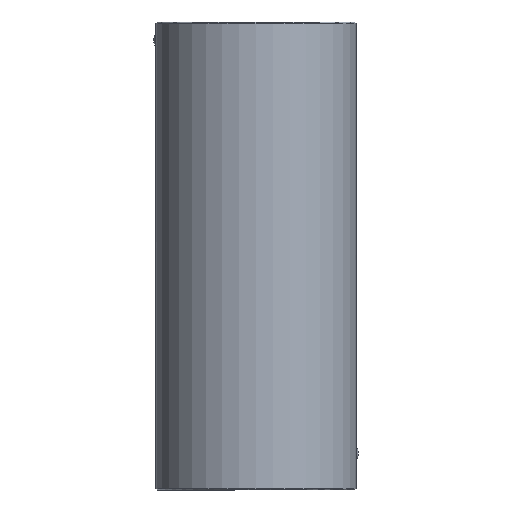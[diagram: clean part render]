
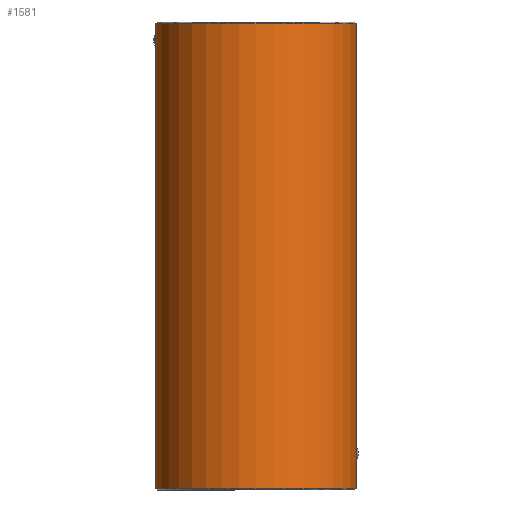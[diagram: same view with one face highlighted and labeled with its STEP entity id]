
A CAD part, front view. The second image highlights one B-rep face of the part: STEP entity #1581.
In plain terms, the highlighted cylindrical face has radius 22.5 mm (diameter 45 mm), a partial arc.
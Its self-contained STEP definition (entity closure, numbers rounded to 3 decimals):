
#1363=CARTESIAN_POINT('Vertex',(-22.5,0.,0.3)) ;
#1370=CARTESIAN_POINT('Vertex',(22.5,0.,0.3)) ;
#1373=CARTESIAN_POINT('Axis2P3D Location',(0.,0.,0.3)) ;
#1491=CARTESIAN_POINT('Axis2P3D Location',(0.,0.,105.)) ;
#1496=CARTESIAN_POINT('Line Origine',(22.5,0.,105.)) ;
#1500=CARTESIAN_POINT('Vertex',(22.5,0.,6.877)) ;
#1504=CARTESIAN_POINT('Control Point',(22.458,-1.369,8.201)) ;
#1505=CARTESIAN_POINT('Control Point',(22.458,-1.369,7.777)) ;
#1506=CARTESIAN_POINT('Control Point',(22.469,-1.194,7.356)) ;
#1507=CARTESIAN_POINT('Control Point',(22.49,-0.847,7.034)) ;
#1508=CARTESIAN_POINT('Control Point',(22.5,-0.424,6.877)) ;
#1509=CARTESIAN_POINT('Control Point',(22.5,0.,6.877)) ;
#1510=CARTESIAN_POINT('Vertex',(22.458,-1.369,8.201)) ;
#1514=CARTESIAN_POINT('Control Point',(22.5,0.,9.523)) ;
#1515=CARTESIAN_POINT('Control Point',(22.5,-0.423,9.523)) ;
#1516=CARTESIAN_POINT('Control Point',(22.49,-0.842,9.368)) ;
#1517=CARTESIAN_POINT('Control Point',(22.469,-1.194,9.046)) ;
#1518=CARTESIAN_POINT('Control Point',(22.458,-1.368,8.624)) ;
#1519=CARTESIAN_POINT('Control Point',(22.458,-1.369,8.201)) ;
#1520=CARTESIAN_POINT('Vertex',(22.5,0.,9.523)) ;
#1523=CARTESIAN_POINT('Line Origine',(22.5,0.,105.)) ;
#1527=CARTESIAN_POINT('Vertex',(22.5,0.,104.7)) ;
#1530=CARTESIAN_POINT('Axis2P3D Location',(0.,0.,104.7)) ;
#1534=CARTESIAN_POINT('Vertex',(-22.5,0.,104.7)) ;
#1537=CARTESIAN_POINT('Line Origine',(-22.5,0.,105.)) ;
#1541=CARTESIAN_POINT('Vertex',(-22.5,0.,102.223)) ;
#1545=CARTESIAN_POINT('Control Point',(-22.458,-1.369,100.899)) ;
#1546=CARTESIAN_POINT('Control Point',(-22.458,-1.369,101.323)) ;
#1547=CARTESIAN_POINT('Control Point',(-22.469,-1.194,101.744)) ;
#1548=CARTESIAN_POINT('Control Point',(-22.49,-0.847,102.066)) ;
#1549=CARTESIAN_POINT('Control Point',(-22.5,-0.424,102.223)) ;
#1550=CARTESIAN_POINT('Control Point',(-22.5,0.,102.223)) ;
#1551=CARTESIAN_POINT('Vertex',(-22.458,-1.369,100.899)) ;
#1555=CARTESIAN_POINT('Control Point',(-22.5,0.,99.577)) ;
#1556=CARTESIAN_POINT('Control Point',(-22.5,-0.423,99.577)) ;
#1557=CARTESIAN_POINT('Control Point',(-22.49,-0.842,99.732)) ;
#1558=CARTESIAN_POINT('Control Point',(-22.469,-1.194,100.054)) ;
#1559=CARTESIAN_POINT('Control Point',(-22.458,-1.368,100.476)) ;
#1560=CARTESIAN_POINT('Control Point',(-22.458,-1.369,100.899)) ;
#1561=CARTESIAN_POINT('Vertex',(-22.5,0.,99.577)) ;
#1564=CARTESIAN_POINT('Line Origine',(-22.5,0.,105.)) ;
#1374=DIRECTION('Axis2P3D Direction',(0.,-0.,1.)) ;
#1492=DIRECTION('Axis2P3D Direction',(0.,0.,-1.)) ;
#1493=DIRECTION('Axis2P3D XDirection',(1.,0.,0.)) ;
#1497=DIRECTION('Vector Direction',(0.,0.,-1.)) ;
#1524=DIRECTION('Vector Direction',(0.,0.,-1.)) ;
#1531=DIRECTION('Axis2P3D Direction',(0.,0.,-1.)) ;
#1538=DIRECTION('Vector Direction',(0.,0.,-1.)) ;
#1565=DIRECTION('Vector Direction',(0.,0.,-1.)) ;
#1375=AXIS2_PLACEMENT_3D('Circle Axis2P3D',#1373,#1374,$) ;
#1494=AXIS2_PLACEMENT_3D('Cylinder Axis2P3D',#1491,#1492,#1493) ;
#1532=AXIS2_PLACEMENT_3D('Circle Axis2P3D',#1530,#1531,$) ;
#1570=ORIENTED_EDGE('',*,*,#1502,.T.) ;
#1571=ORIENTED_EDGE('',*,*,#1512,.F.) ;
#1572=ORIENTED_EDGE('',*,*,#1522,.F.) ;
#1573=ORIENTED_EDGE('',*,*,#1529,.T.) ;
#1574=ORIENTED_EDGE('',*,*,#1536,.F.) ;
#1575=ORIENTED_EDGE('',*,*,#1543,.T.) ;
#1576=ORIENTED_EDGE('',*,*,#1553,.F.) ;
#1577=ORIENTED_EDGE('',*,*,#1563,.F.) ;
#1578=ORIENTED_EDGE('',*,*,#1568,.T.) ;
#1579=ORIENTED_EDGE('',*,*,#1377,.T.) ;
#1498=VECTOR('Line Direction',#1497,1.) ;
#1525=VECTOR('Line Direction',#1524,1.) ;
#1539=VECTOR('Line Direction',#1538,1.) ;
#1566=VECTOR('Line Direction',#1565,1.) ;
#1581=ADVANCED_FACE('730-38x105',(#1580),#1495,.T.) ;
#1503=B_SPLINE_CURVE_WITH_KNOTS('',5,(#1504,#1505,#1506,#1507,#1508,#1509),.UNSPECIFIED.,.F.,.U.,(6,6),(0.,3.001),.UNSPECIFIED.) ;
#1513=B_SPLINE_CURVE_WITH_KNOTS('',5,(#1514,#1515,#1516,#1517,#1518,#1519),.UNSPECIFIED.,.F.,.U.,(6,6),(0.,2.995),.UNSPECIFIED.) ;
#1544=B_SPLINE_CURVE_WITH_KNOTS('',5,(#1545,#1546,#1547,#1548,#1549,#1550),.UNSPECIFIED.,.F.,.U.,(6,6),(0.,3.001),.UNSPECIFIED.) ;
#1554=B_SPLINE_CURVE_WITH_KNOTS('',5,(#1555,#1556,#1557,#1558,#1559,#1560),.UNSPECIFIED.,.F.,.U.,(6,6),(0.,2.995),.UNSPECIFIED.) ;
#1376=CIRCLE('generated circle',#1375,22.5) ;
#1533=CIRCLE('generated circle',#1532,22.5) ;
#1495=CYLINDRICAL_SURFACE('generated cylinder',#1494,22.5) ;
#1377=EDGE_CURVE('',#1364,#1371,#1376,.T.) ;
#1502=EDGE_CURVE('',#1371,#1501,#1499,.F.) ;
#1512=EDGE_CURVE('',#1511,#1501,#1503,.T.) ;
#1522=EDGE_CURVE('',#1521,#1511,#1513,.T.) ;
#1529=EDGE_CURVE('',#1521,#1528,#1526,.F.) ;
#1536=EDGE_CURVE('',#1535,#1528,#1533,.F.) ;
#1543=EDGE_CURVE('',#1535,#1542,#1540,.T.) ;
#1553=EDGE_CURVE('',#1552,#1542,#1544,.T.) ;
#1563=EDGE_CURVE('',#1562,#1552,#1554,.T.) ;
#1568=EDGE_CURVE('',#1562,#1364,#1567,.T.) ;
#1569=EDGE_LOOP('',(#1570,#1571,#1572,#1573,#1574,#1575,#1576,#1577,#1578,#1579)) ;
#1580=FACE_OUTER_BOUND('',#1569,.T.) ;
#1499=LINE('Line',#1496,#1498) ;
#1526=LINE('Line',#1523,#1525) ;
#1540=LINE('Line',#1537,#1539) ;
#1567=LINE('Line',#1564,#1566) ;
#1364=VERTEX_POINT('',#1363) ;
#1371=VERTEX_POINT('',#1370) ;
#1501=VERTEX_POINT('',#1500) ;
#1511=VERTEX_POINT('',#1510) ;
#1521=VERTEX_POINT('',#1520) ;
#1528=VERTEX_POINT('',#1527) ;
#1535=VERTEX_POINT('',#1534) ;
#1542=VERTEX_POINT('',#1541) ;
#1552=VERTEX_POINT('',#1551) ;
#1562=VERTEX_POINT('',#1561) ;
